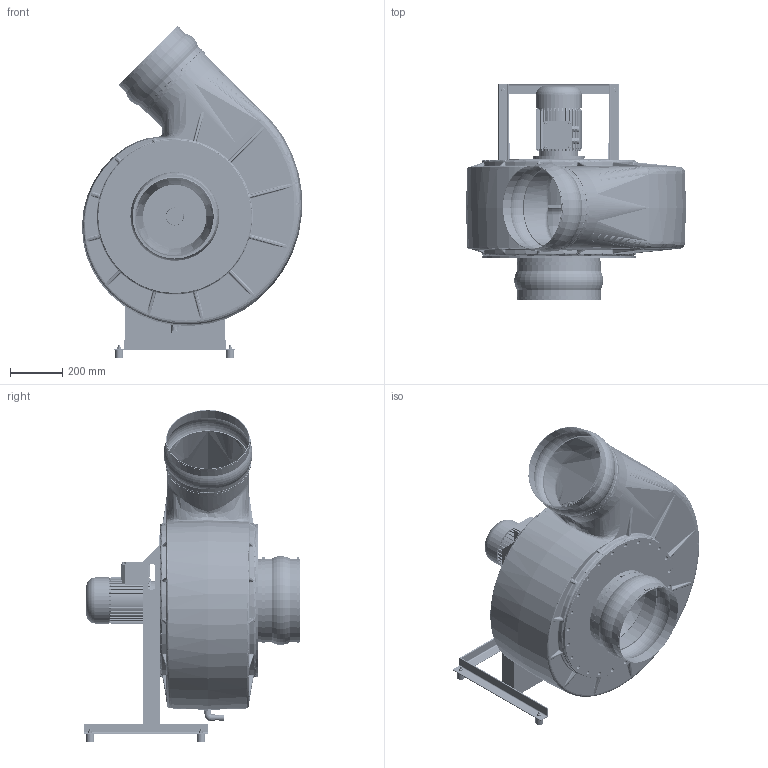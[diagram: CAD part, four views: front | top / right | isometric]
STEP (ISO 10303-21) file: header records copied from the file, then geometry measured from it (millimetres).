
FILE_DESCRIPTION( ( 'Unknown' ), '1' );
FILE_NAME( 'K:/HOME/HLT_CAD/Z/HF/3D/Zusammenstellung/HFR/HFR 15_17/HFR...-15D/DS_1/HFR_315-15D/GR45/HFR_315-15D_DS1_GR_045_090.stp', 'Unknown', ( 'Unknown' ), ( 'Unknown' ), 'PSStep 14.0', 'Unknown', ' ' );
FILE_SCHEMA( ( 'AUTOMOTIVE_DESIGN { 1 0 10303 214 1 1 1 1 }' ) );
Length unit declared in the file: millimetre
Products named in the file (32): 5158_Gehäusedeckel_315; 5158_Rohr; GD_FL 315; 315; 5158_Rohr_250; 5159_Kondensatablauf_125-315; Winkel_90°_G1_2; Stopfen_G1_2-oa4; Rohr_20; Verschlusskappe_20; 6203_Kugelmanschette; 6203_Manschettenband_HFR315; 6203_Schelle_HFR315; 5217_Laufradbefestigung; 5217_Drehteil; 5217_Flachdichtung_Ø32; 5217_Schraubkappe; 5217_Flachdichtung_Ø63; HFR 315_GR; Ensat-Buchse-M8; 5326_Gestell_HFR_315_15_D_DS1; 360-oa0; Angle 40x40x4-oa1; Angle 40x40x4-oa2; Angle 40x40x4-oa3; Assem1; Laufrad 315_GR; 6611_Motorring_Bg80; Schwidä_30x30; 6kant_M8; B5_90L_2HIHI
Assembly tree (95 placements, depth 3):
  Assem1
    Laufrad 315_GR
    6611_Motorring_Bg80
    Schwidä_30x30  x4
    6kant_M8  x4
    B5_90L_2HIHI
    5326_Gestell_HFR_315_15_D_DS1
      360-oa0
      Angle 40x40x4-oa1
      Angle 40x40x4-oa2
      Angle 40x40x4-oa3
    HFR 315_GR
      HFR 315_GR
      Ensat-Buchse-M8  x56
    5158_Gehäusedeckel_315
      5158_Rohr
      GD_FL 315
      315  x2
      5158_Rohr_250
    5159_Kondensatablauf_125-315
      Winkel_90°_G1_2
      Stopfen_G1_2-oa4
      Rohr_20
      Verschlusskappe_20
    6203_Kugelmanschette  x2
      6203_Manschettenband_HFR315
      6203_Schelle_HFR315
    5217_Laufradbefestigung
      5217_Drehteil
      5217_Flachdichtung_Ø32
      5217_Schraubkappe
      5217_Flachdichtung_Ø63
Bounding box: 840.12 x 827 x 1266.91 mm (x, y, z)
Volume: 15639896.7 mm3; surface area: 7900004.3 mm2
Topology: 90 solids, 92 shells, 3325 faces, 6993 edges, 4359 vertices
Faces by surface type: plane 1409, cylinder 1105, bspline 362, torus 223, cone 134, sphere 48, offset 36, revolution 8
Full cylindrical faces by diameter (mm): 6.647 x65, 8 x14, 9 x2, 10 x4, 10.5 x1, 11 x8, 12 x229, 13 x233, 15 x28, 16 x6, 17 x49, 20 x4, 20.955 x1, 22.212 x1, 23 x1, 24 x5, 25 x1, 26.5 x2, 28.8 x1, 30 x4, 30.291 x1, 32 x1, 33.25 x1, 37 x1, 40 x1, 44 x1, 46 x1, 50 x1, 52 x1, 53 x1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
Entity records: 180772 total; most frequent: CARTESIAN_POINT 103191, DIRECTION 11469, ORIENTED_EDGE 10360, EDGE_CURVE 5180, AXIS2_PLACEMENT_3D 4878, EDGE_LOOP 3783, VERTEX_POINT 3502, FACE_OUTER_BOUND 3246
